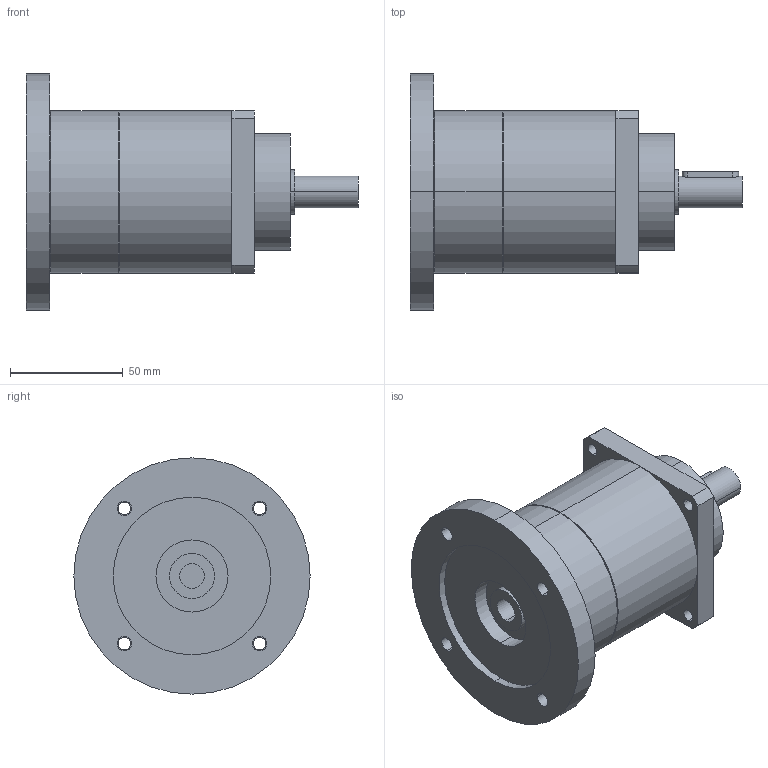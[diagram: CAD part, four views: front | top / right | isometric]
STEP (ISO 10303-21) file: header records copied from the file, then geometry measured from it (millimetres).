
FILE_DESCRIPTION(('CoCreate Modeling STEP Export'),'2;1');
FILE_NAME('GPT75_ig-9-12-16-20-25-28-35-40-50-70-100_14_B5T_11_P05.stp','2014-08-27T13:34:14',(''),(''),'CoCreate Modeling STEP processor for AP214 (Solid Model)','CoCreate Modeling 16.00C 25-Feb-2009 (C) Parametric Technology GmbH','');
FILE_SCHEMA(('AUTOMOTIVE_DESIGN { 1 0 10303 214 1 1 1 1 }'));
Length unit declared in the file: millimetre
Products named in the file (2): GPT75_ig-9-12-16-20-25-28-35-40-50-70-100_14_B5T_11_P05
Assembly tree (1 placements, depth 2):
  GPT75_ig-9-12-16-20-25-28-35-40-50-70-100_14_B5T_11_P05
    GPT75_ig-9-12-16-20-25-28-35-40-50-70-100_14_B5T_11_P05
Bounding box: 147.5 x 105 x 105 mm (x, y, z)
Volume: 487812.8 mm3; surface area: 52578 mm2
Topology: 1 solids, 1 shells, 71 faces, 178 edges, 119 vertices
Faces by surface type: cylinder 44, plane 23, cone 4
Entity records: 2277 total; most frequent: CARTESIAN_POINT 682, ORIENTED_EDGE 356, DIRECTION 280, EDGE_CURVE 178, VERTEX_POINT 119, AXIS2_PLACEMENT_3D 105, EDGE_LOOP 97, FACE_OUTER_BOUND 71
